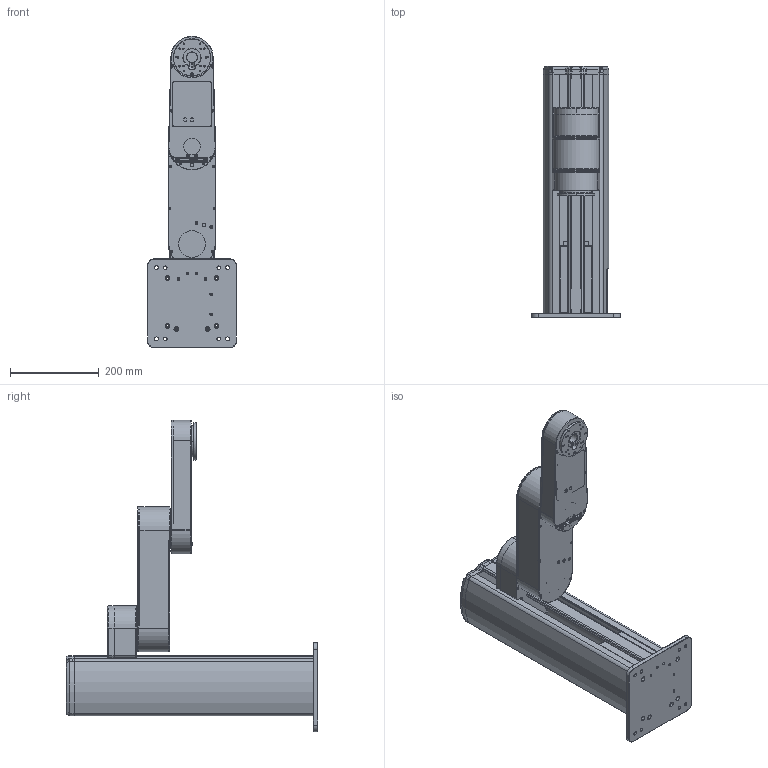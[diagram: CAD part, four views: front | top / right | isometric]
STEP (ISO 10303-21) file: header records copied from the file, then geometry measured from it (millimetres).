
FILE_DESCRIPTION (( 'STEP AP214' ), '1' );
FILE_NAME ('Z-Arm 2142Íâ·¢Ä£ÐÍ20231111.STEP', '2023-11-11T09:35:03', ( '' ), ( '' ), 'SwSTEP 2.0', 'SolidWorks 2022', '' );
FILE_SCHEMA (( 'AUTOMOTIVE_DESIGN' ));
Length unit declared in the file: millimetre
Products named in the file (5): 2142E菴珨旋极郪; 2142E菴媼旋极郪璃; 2142E奻狟堍雄郪璃; 2142E嘐隅釱郪璃; Z-Arm 2142俋楷耀倰20231111
Assembly tree (4 placements, depth 2):
  Z-Arm 2142俋楷耀倰20231111
    2142E嘐隅釱郪璃
    2142E奻狟堍雄郪璃
    2142E菴珨旋极郪
    2142E菴媼旋极郪璃
Bounding box: 200 x 566 x 700.5 mm (x, y, z)
Volume: 6023807.7 mm3; surface area: 1250821.8 mm2
Topology: 19 solids, 19 shells, 2193 faces, 5762 edges, 3733 vertices
Faces by surface type: cylinder 1016, plane 971, cone 157, torus 43, bspline 6
Entity records: 93996 total; most frequent: CARTESIAN_POINT 13162, DIRECTION 12245, ORIENTED_EDGE 11464, EDGE_CURVE 5732, AXIS2_PLACEMENT_3D 4437, VERTEX_POINT 3733, LINE 3371, VECTOR 3371
